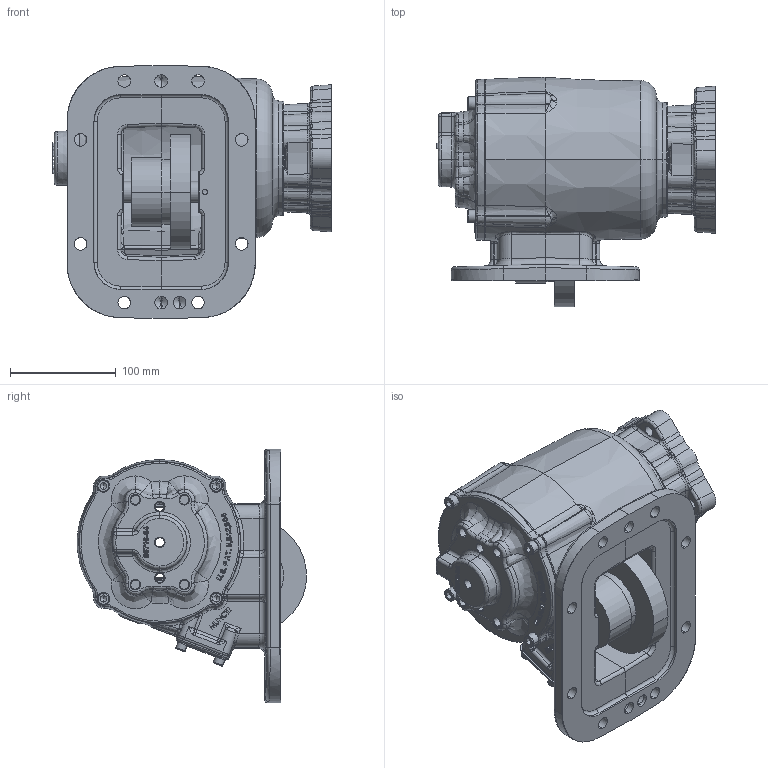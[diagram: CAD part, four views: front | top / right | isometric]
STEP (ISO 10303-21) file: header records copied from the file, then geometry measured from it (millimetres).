
FILE_DESCRIPTION (( 'STEP AP203' ), '1' );
FILE_NAME ('CS8S-XXXXX-X4DX.STEP', '2012-06-12T14:38:55', ( '' ), ( '' ), 'SwSTEP 2.0', 'SolidWorks 2012', '' );
FILE_SCHEMA (( 'CONFIG_CONTROL_DESIGN' ));
Length unit declared in the file: millimetre
Products named in the file (3): CS8S-XXXXX-X4DX; 14T39406-1; CS8S-XXXXX-X4XX
Assembly tree (2 placements, depth 2):
  CS8S-XXXXX-X4DX
    CS8S-XXXXX-X4XX
    14T39406-1
Bounding box: 263.71 x 216.75 x 239.61 mm (x, y, z)
Volume: 1853147 mm3; surface area: 448093 mm2
Topology: 2 solids, 14 shells, 2244 faces, 5700 edges, 3503 vertices
Faces by surface type: bspline 795, plane 527, cylinder 463, cone 312, torus 139, sphere 8
Entity records: 118187 total; most frequent: CARTESIAN_POINT 69811, ORIENTED_EDGE 11242, DIRECTION 8148, EDGE_CURVE 5621, VERTEX_POINT 3503, AXIS2_PLACEMENT_3D 3044, EDGE_LOOP 2448, FACE_OUTER_BOUND 2244
